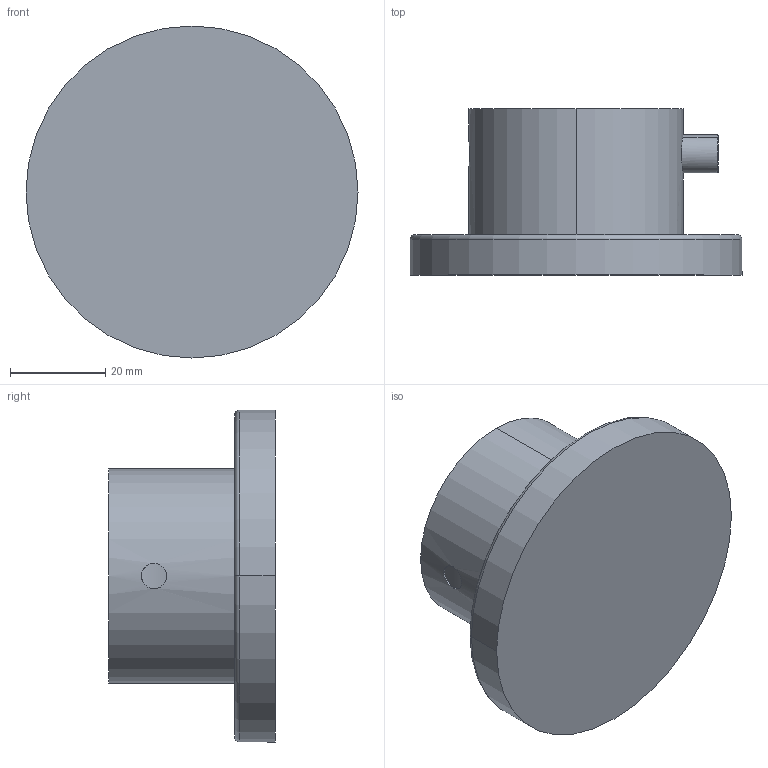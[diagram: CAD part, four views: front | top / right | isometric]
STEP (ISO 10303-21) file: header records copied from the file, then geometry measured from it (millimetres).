
FILE_DESCRIPTION (( 'STEP AP214' ), '1' );
FILE_NAME ('02232710 x architetti.STEP', '2024-09-16T09:42:32', ( '' ), ( '' ), 'SwSTEP 2.0', 'SolidWorks 2020', '' );
FILE_SCHEMA (( 'AUTOMOTIVE_DESIGN' ));
Length unit declared in the file: millimetre
Products named in the file (1): 02232710 x architetti
Bounding box: 69.8 x 35 x 69.8 mm (x, y, z)
Volume: 74913.2 mm3; surface area: 13465.7 mm2
Topology: 1 solids, 2 shells, 23 faces, 45 edges, 27 vertices
Faces by surface type: cylinder 13, torus 4, plane 4, cone 2
Entity records: 1059 total; most frequent: CARTESIAN_POINT 344, DIRECTION 101, ORIENTED_EDGE 86, AXIS2_PLACEMENT_3D 44, EDGE_CURVE 43, VERTEX_POINT 27, EDGE_LOOP 26, UNCERTAINTY_MEASURE_WITH_UNIT 23
